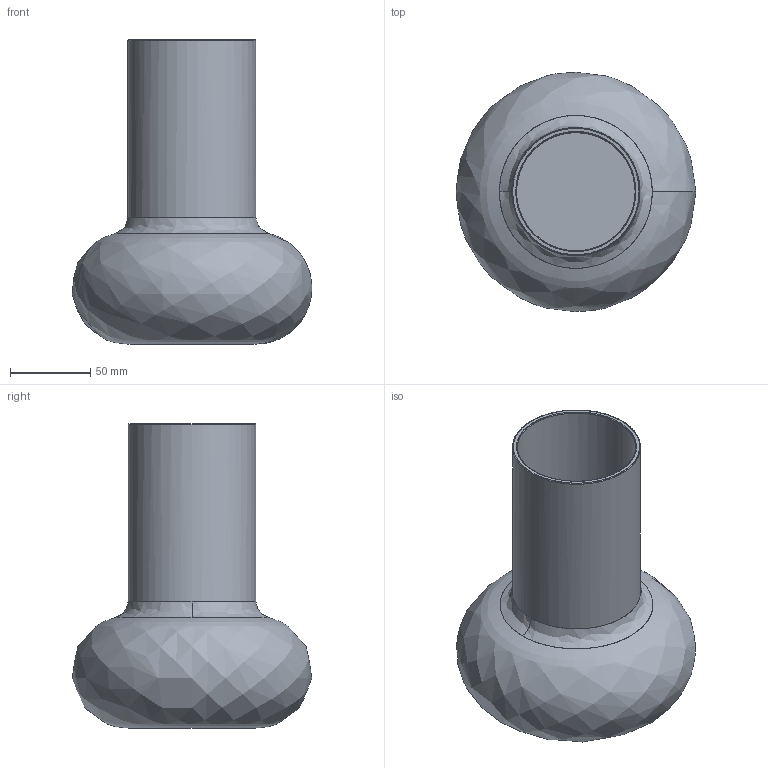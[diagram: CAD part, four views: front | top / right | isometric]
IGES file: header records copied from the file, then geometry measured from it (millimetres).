
Start section: C
Global section: file name: CALLA.igs; native system:  By UGS Corp.; preprocessor: XPlus GENERIC/IGES 3.0; author: Author; organization: Title; date: 20201105.184343; units: millimetre
Bounding box: 149.76 x 149.56 x 190 mm (x, y, z)
Surface area: 149660.1 mm2 (no closed solid volume)
Topology: 0 solids, 0 shells, 11 faces, 56 edges, 56 vertices
Faces by surface type: bspline 11
